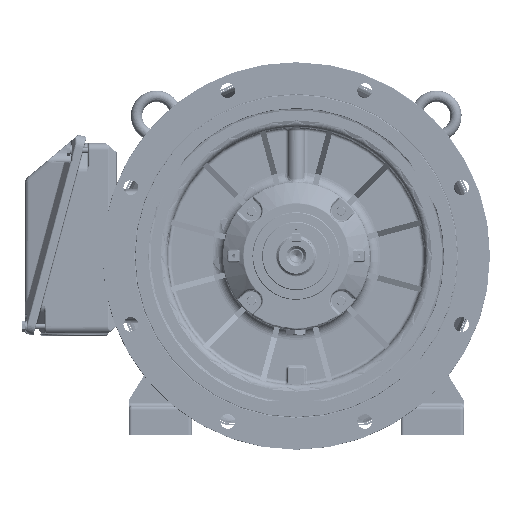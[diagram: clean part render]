
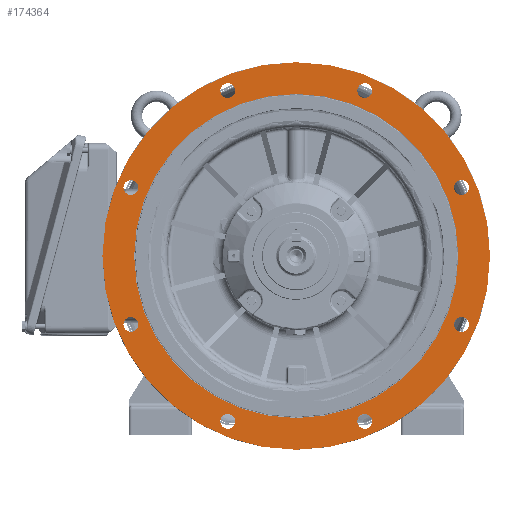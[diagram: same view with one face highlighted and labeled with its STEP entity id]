
A CAD part, front view. The second image highlights one B-rep face of the part: STEP entity #174364.
In plain terms, the highlighted planar face has unit normal (0, -1, 0).
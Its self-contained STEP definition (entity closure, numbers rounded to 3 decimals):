
#38718=PLANE('',#186792);
#57386=ORIENTED_EDGE('',*,*,#102890,.T.);
#57387=ORIENTED_EDGE('',*,*,#102891,.F.);
#57388=ORIENTED_EDGE('',*,*,#102892,.F.);
#57389=ORIENTED_EDGE('',*,*,#102893,.F.);
#57390=ORIENTED_EDGE('',*,*,#102894,.F.);
#57391=ORIENTED_EDGE('',*,*,#102895,.F.);
#57392=ORIENTED_EDGE('',*,*,#102896,.F.);
#57393=ORIENTED_EDGE('',*,*,#102897,.F.);
#57394=ORIENTED_EDGE('',*,*,#102898,.F.);
#57395=ORIENTED_EDGE('',*,*,#102899,.F.);
#102890=EDGE_CURVE('',#145610,#145610,#124357,.T.);
#102891=EDGE_CURVE('',#145611,#145611,#124358,.T.);
#102892=EDGE_CURVE('',#145612,#145612,#124359,.T.);
#102893=EDGE_CURVE('',#145613,#145613,#124360,.T.);
#102894=EDGE_CURVE('',#145614,#145614,#124361,.T.);
#102895=EDGE_CURVE('',#145615,#145615,#124362,.T.);
#102896=EDGE_CURVE('',#145616,#145616,#124363,.T.);
#102897=EDGE_CURVE('',#145617,#145617,#124364,.T.);
#102898=EDGE_CURVE('',#145618,#145618,#124365,.T.);
#102899=EDGE_CURVE('',#145619,#145619,#124366,.T.);
#124357=CIRCLE('',#186793,275.);
#124358=CIRCLE('',#186794,230.);
#124359=CIRCLE('',#186795,10.5);
#124360=CIRCLE('',#186796,10.5);
#124361=CIRCLE('',#186797,10.5);
#124362=CIRCLE('',#186798,10.5);
#124363=CIRCLE('',#186799,10.5);
#124364=CIRCLE('',#186800,10.5);
#124365=CIRCLE('',#186801,10.5);
#124366=CIRCLE('',#186802,10.5);
#131349=EDGE_LOOP('',(#57386));
#131350=EDGE_LOOP('',(#57387));
#131351=EDGE_LOOP('',(#57388));
#131352=EDGE_LOOP('',(#57389));
#131353=EDGE_LOOP('',(#57390));
#131354=EDGE_LOOP('',(#57391));
#131355=EDGE_LOOP('',(#57392));
#131356=EDGE_LOOP('',(#57393));
#131357=EDGE_LOOP('',(#57394));
#131358=EDGE_LOOP('',(#57395));
#145610=VERTEX_POINT('',#268396);
#145611=VERTEX_POINT('',#268398);
#145612=VERTEX_POINT('',#268400);
#145613=VERTEX_POINT('',#268402);
#145614=VERTEX_POINT('',#268404);
#145615=VERTEX_POINT('',#268406);
#145616=VERTEX_POINT('',#268408);
#145617=VERTEX_POINT('',#268410);
#145618=VERTEX_POINT('',#268412);
#145619=VERTEX_POINT('',#268414);
#161111=FACE_BOUND('',#131349,.T.);
#161112=FACE_BOUND('',#131350,.T.);
#161113=FACE_BOUND('',#131351,.T.);
#161114=FACE_BOUND('',#131352,.T.);
#161115=FACE_BOUND('',#131353,.T.);
#161116=FACE_BOUND('',#131354,.T.);
#161117=FACE_BOUND('',#131355,.T.);
#161118=FACE_BOUND('',#131356,.T.);
#161119=FACE_BOUND('',#131357,.T.);
#161120=FACE_BOUND('',#131358,.T.);
#174364=ADVANCED_FACE('',(#161111,#161112,#161113,#161114,#161115,#161116,
#161117,#161118,#161119,#161120),#38718,.F.);
#186792=AXIS2_PLACEMENT_3D('',#268394,#210111,#210112);
#186793=AXIS2_PLACEMENT_3D('',#268395,#210113,#210114);
#186794=AXIS2_PLACEMENT_3D('',#268397,#210115,#210116);
#186795=AXIS2_PLACEMENT_3D('',#268399,#210117,#210118);
#186796=AXIS2_PLACEMENT_3D('',#268401,#210119,#210120);
#186797=AXIS2_PLACEMENT_3D('',#268403,#210121,#210122);
#186798=AXIS2_PLACEMENT_3D('',#268405,#210123,#210124);
#186799=AXIS2_PLACEMENT_3D('',#268407,#210125,#210126);
#186800=AXIS2_PLACEMENT_3D('',#268409,#210127,#210128);
#186801=AXIS2_PLACEMENT_3D('',#268411,#210129,#210130);
#186802=AXIS2_PLACEMENT_3D('',#268413,#210131,#210132);
#210111=DIRECTION('',(0.,1.,0.));
#210112=DIRECTION('',(1.,0.,0.));
#210113=DIRECTION('',(0.,-1.,0.));
#210114=DIRECTION('',(-1.,0.,0.));
#210115=DIRECTION('',(0.,-1.,0.));
#210116=DIRECTION('',(-1.,0.,0.));
#210117=DIRECTION('',(0.,-1.,0.));
#210118=DIRECTION('',(0.,0.,1.));
#210119=DIRECTION('',(0.,-1.,0.));
#210120=DIRECTION('',(0.,0.,1.));
#210121=DIRECTION('',(0.,-1.,0.));
#210122=DIRECTION('',(0.,0.,1.));
#210123=DIRECTION('',(0.,-1.,0.));
#210124=DIRECTION('',(0.,0.,1.));
#210125=DIRECTION('',(0.,-1.,0.));
#210126=DIRECTION('',(0.,0.,1.));
#210127=DIRECTION('',(0.,-1.,0.));
#210128=DIRECTION('',(0.,0.,1.));
#210129=DIRECTION('',(0.,-1.,0.));
#210130=DIRECTION('',(0.,0.,1.));
#210131=DIRECTION('',(0.,-1.,0.));
#210132=DIRECTION('',(0.,0.,1.));
#268394=CARTESIAN_POINT('',(230.,-90.02,0.));
#268395=CARTESIAN_POINT('',(0.,-90.02,0.));
#268396=CARTESIAN_POINT('',(-275.,-90.02,0.));
#268397=CARTESIAN_POINT('',(0.,-90.02,0.));
#268398=CARTESIAN_POINT('',(-230.,-90.02,0.));
#268399=CARTESIAN_POINT('',(-234.665,-90.02,-97.202));
#268400=CARTESIAN_POINT('',(-234.665,-90.02,-86.702));
#268401=CARTESIAN_POINT('',(-97.202,-90.02,-234.665));
#268402=CARTESIAN_POINT('',(-97.202,-90.02,-224.165));
#268403=CARTESIAN_POINT('',(97.202,-90.02,-234.665));
#268404=CARTESIAN_POINT('',(97.202,-90.02,-224.165));
#268405=CARTESIAN_POINT('',(234.665,-90.02,-97.202));
#268406=CARTESIAN_POINT('',(234.665,-90.02,-86.702));
#268407=CARTESIAN_POINT('',(-97.202,-90.02,234.665));
#268408=CARTESIAN_POINT('',(-97.202,-90.02,245.165));
#268409=CARTESIAN_POINT('',(97.202,-90.02,234.665));
#268410=CARTESIAN_POINT('',(97.202,-90.02,245.165));
#268411=CARTESIAN_POINT('',(234.665,-90.02,97.202));
#268412=CARTESIAN_POINT('',(234.665,-90.02,107.702));
#268413=CARTESIAN_POINT('',(-234.665,-90.02,97.202));
#268414=CARTESIAN_POINT('',(-234.665,-90.02,107.702));
